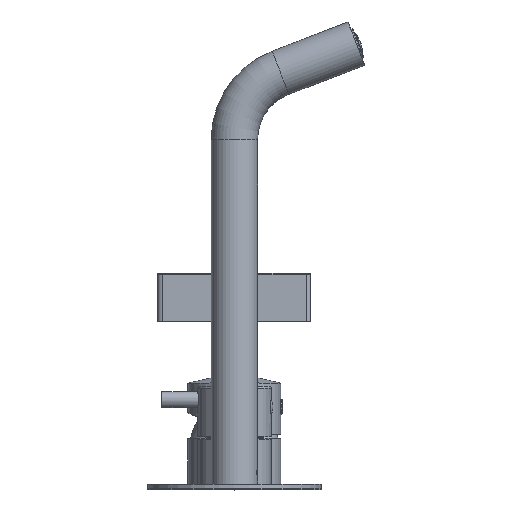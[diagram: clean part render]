
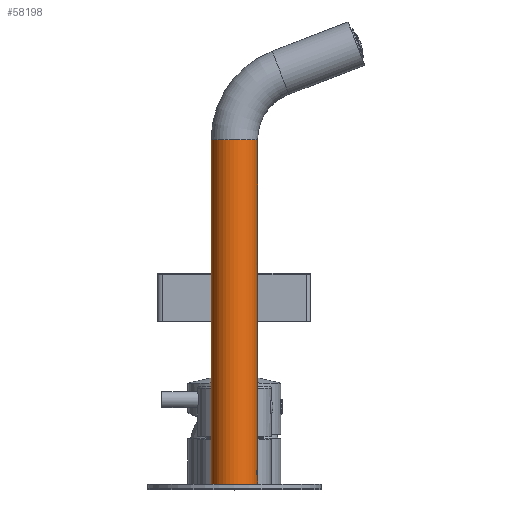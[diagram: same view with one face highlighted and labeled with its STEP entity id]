
A CAD part, top view. The second image highlights one B-rep face of the part: STEP entity #58198.
In plain terms, the highlighted cylindrical face has radius 10 mm (diameter 20 mm), a partial arc.
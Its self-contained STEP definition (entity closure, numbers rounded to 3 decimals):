
#16919=CARTESIAN_POINT('',(0.,225.516,110.));
#16920=DIRECTION('',(0.,1.,0.));
#16921=DIRECTION('',(-1.,0.,0.));
#16922=AXIS2_PLACEMENT_3D('',#16919,#16920,#16921);
#16929=CARTESIAN_POINT('',(0.,77.,110.));
#16930=DIRECTION('',(0.,1.,0.));
#16931=DIRECTION('',(-1.,0.,0.));
#16932=AXIS2_PLACEMENT_3D('',#16929,#16930,#16931);
#16934=DIRECTION('',(0.,1.,0.));
#16935=VECTOR('',#16934,148.516);
#16936=CARTESIAN_POINT('',(-10.,77.,110.));
#16937=LINE('',#16936,#16935);
#16938=CARTESIAN_POINT('',(10.,79.9,110.));
#16939=CARTESIAN_POINT('',(10.,79.9,110.042));
#16940=CARTESIAN_POINT('',(9.999,79.903,110.126));
#16941=CARTESIAN_POINT('',(9.997,79.914,110.251));
#16942=CARTESIAN_POINT('',(9.993,79.933,110.376));
#16943=CARTESIAN_POINT('',(9.988,79.959,110.499));
#16944=CARTESIAN_POINT('',(9.981,79.993,110.621));
#16945=CARTESIAN_POINT('',(9.973,80.034,110.741));
#16946=CARTESIAN_POINT('',(9.963,80.082,110.858));
#16947=CARTESIAN_POINT('',(9.953,80.137,110.973));
#16948=CARTESIAN_POINT('',(9.941,80.2,111.084));
#16949=CARTESIAN_POINT('',(9.929,80.269,111.191));
#16950=CARTESIAN_POINT('',(9.916,80.345,111.294));
#16951=CARTESIAN_POINT('',(9.903,80.426,111.393));
#16952=CARTESIAN_POINT('',(9.889,80.514,111.486));
#16953=CARTESIAN_POINT('',(9.876,80.608,111.574));
#16954=CARTESIAN_POINT('',(9.862,80.706,111.656));
#16955=CARTESIAN_POINT('',(9.849,80.809,111.731));
#16956=CARTESIAN_POINT('',(9.837,80.917,111.8));
#16957=CARTESIAN_POINT('',(9.825,81.028,111.863));
#16958=CARTESIAN_POINT('',(9.814,81.142,111.918));
#16959=CARTESIAN_POINT('',(9.805,81.26,111.967));
#16960=CARTESIAN_POINT('',(9.796,81.379,112.008));
#16961=CARTESIAN_POINT('',(9.789,81.501,112.041));
#16962=CARTESIAN_POINT('',(9.784,81.625,112.067));
#16963=CARTESIAN_POINT('',(9.78,81.749,112.086));
#16964=CARTESIAN_POINT('',(9.778,81.874,112.097));
#16965=CARTESIAN_POINT('',(9.777,82.,112.101));
#16966=CARTESIAN_POINT('',(9.778,82.126,112.097));
#16967=CARTESIAN_POINT('',(9.78,82.251,112.086));
#16968=CARTESIAN_POINT('',(9.784,82.375,112.067));
#16969=CARTESIAN_POINT('',(9.789,82.499,112.041));
#16970=CARTESIAN_POINT('',(9.796,82.621,112.008));
#16971=CARTESIAN_POINT('',(9.805,82.74,111.967));
#16972=CARTESIAN_POINT('',(9.814,82.858,111.918));
#16973=CARTESIAN_POINT('',(9.825,82.972,111.863));
#16974=CARTESIAN_POINT('',(9.837,83.083,111.8));
#16975=CARTESIAN_POINT('',(9.849,83.191,111.731));
#16976=CARTESIAN_POINT('',(9.862,83.294,111.656));
#16977=CARTESIAN_POINT('',(9.876,83.392,111.574));
#16978=CARTESIAN_POINT('',(9.889,83.486,111.486));
#16979=CARTESIAN_POINT('',(9.903,83.574,111.393));
#16980=CARTESIAN_POINT('',(9.916,83.655,111.294));
#16981=CARTESIAN_POINT('',(9.929,83.731,111.191));
#16982=CARTESIAN_POINT('',(9.941,83.8,111.084));
#16983=CARTESIAN_POINT('',(9.953,83.863,110.973));
#16984=CARTESIAN_POINT('',(9.963,83.918,110.858));
#16985=CARTESIAN_POINT('',(9.973,83.966,110.741));
#16986=CARTESIAN_POINT('',(9.981,84.007,110.621));
#16987=CARTESIAN_POINT('',(9.988,84.041,110.499));
#16988=CARTESIAN_POINT('',(9.993,84.067,110.376));
#16989=CARTESIAN_POINT('',(9.997,84.086,110.251));
#16990=CARTESIAN_POINT('',(9.999,84.097,110.126));
#16991=CARTESIAN_POINT('',(10.,84.1,110.042));
#16992=CARTESIAN_POINT('',(10.,84.1,110.));
#17027=DIRECTION('',(0.,1.,0.));
#17028=VECTOR('',#17027,2.9);
#17029=CARTESIAN_POINT('',(10.,77.,110.));
#17030=LINE('',#17029,#17028);
#17087=DIRECTION('',(0.,1.,0.));
#17088=VECTOR('',#17087,141.416);
#17089=CARTESIAN_POINT('',(10.,84.1,110.));
#17090=LINE('',#17089,#17088);
#53296=CARTESIAN_POINT('',(-10.,225.516,110.));
#53297=CARTESIAN_POINT('',(10.,225.516,110.));
#53298=VERTEX_POINT('',#53296);
#53299=VERTEX_POINT('',#53297);
#53344=VERTEX_POINT('',#16938);
#53345=VERTEX_POINT('',#16992);
#57468=CARTESIAN_POINT('',(-10.,77.,110.));
#57469=CARTESIAN_POINT('',(10.,77.,110.));
#57470=VERTEX_POINT('',#57468);
#57471=VERTEX_POINT('',#57469);
#58180=CARTESIAN_POINT('',(0.,77.,110.));
#58181=DIRECTION('',(0.,1.,0.));
#58182=DIRECTION('',(-1.,0.,0.));
#58183=AXIS2_PLACEMENT_3D('',#58180,#58181,#58182);
#58184=CYLINDRICAL_SURFACE('',#58183,10.);
#58186=ORIENTED_EDGE('',*,*,#58185,.F.);
#58188=ORIENTED_EDGE('',*,*,#58187,.T.);
#58189=ORIENTED_EDGE('',*,*,#58170,.T.);
#58191=ORIENTED_EDGE('',*,*,#58190,.F.);
#58193=ORIENTED_EDGE('',*,*,#58192,.F.);
#58195=ORIENTED_EDGE('',*,*,#58194,.F.);
#58196=EDGE_LOOP('',(#58186,#58188,#58189,#58191,#58193,#58195));
#58197=FACE_OUTER_BOUND('',#58196,.F.);
#58198=ADVANCED_FACE('',(#58197),#58184,.T.);
#16923=CIRCLE('',#16922,10.);
#16933=CIRCLE('',#16932,10.);
#16993=B_SPLINE_CURVE_WITH_KNOTS('',3,(#16938,#16939,#16940,#16941,#16942,
#16943,#16944,#16945,#16946,#16947,#16948,#16949,#16950,#16951,#16952,#16953,
#16954,#16955,#16956,#16957,#16958,#16959,#16960,#16961,#16962,#16963,#16964,
#16965,#16966,#16967,#16968,#16969,#16970,#16971,#16972,#16973,#16974,#16975,
#16976,#16977,#16978,#16979,#16980,#16981,#16982,#16983,#16984,#16985,#16986,
#16987,#16988,#16989,#16990,#16991,#16992),.UNSPECIFIED.,.F.,.F.,(4,1,1,1,1,1,1,
1,1,1,1,1,1,1,1,1,1,1,1,1,1,1,1,1,1,1,1,1,1,1,1,1,1,1,1,1,1,1,1,1,1,1,1,1,1,1,1,
1,1,1,1,1,4),(0.,0.019,0.038,0.058,
0.077,0.096,0.115,0.135,
0.154,0.173,0.192,0.212,
0.231,0.25,0.269,0.288,0.308,
0.327,0.346,0.365,0.385,
0.404,0.423,0.442,0.462,
0.481,0.5,0.519,0.538,0.558,
0.577,0.596,0.615,0.635,
0.654,0.673,0.692,0.712,
0.731,0.75,0.769,0.788,0.808,
0.827,0.846,0.865,0.885,
0.904,0.923,0.942,0.962,
0.981,1.),.UNSPECIFIED.);
#58170=EDGE_CURVE('',#53298,#53299,#16923,.T.);
#58185=EDGE_CURVE('',#57470,#57471,#16933,.T.);
#58187=EDGE_CURVE('',#57470,#53298,#16937,.T.);
#58190=EDGE_CURVE('',#53345,#53299,#17090,.T.);
#58192=EDGE_CURVE('',#53344,#53345,#16993,.T.);
#58194=EDGE_CURVE('',#57471,#53344,#17030,.T.);
